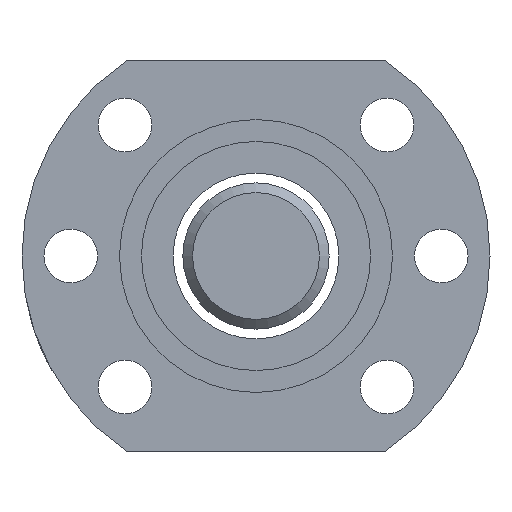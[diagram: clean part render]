
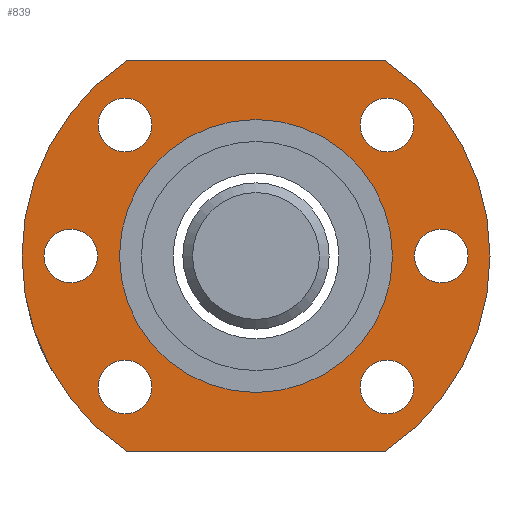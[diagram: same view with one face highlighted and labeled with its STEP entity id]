
A CAD part, left-side view. The second image highlights one B-rep face of the part: STEP entity #839.
In plain terms, the highlighted planar face has unit normal (-1, 0, 0).
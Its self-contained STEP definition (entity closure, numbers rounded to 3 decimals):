
#24 = CARTESIAN_POINT ( 'NONE',  ( -70.362, -50.269, -11.066 ) ) ;
#87 = DIRECTION ( 'NONE',  ( -1., 0., 0. ) ) ;
#122 = EDGE_CURVE ( 'NONE', #1844, #1844, #1569, .T. ) ;
#143 = CARTESIAN_POINT ( 'NONE',  ( -70.362, -63.535, 8.934 ) ) ;
#152 = DIRECTION ( 'NONE',  ( 0., 0., 1. ) ) ;
#175 = CARTESIAN_POINT ( 'NONE',  ( -70.362, -63.704, -24.501 ) ) ;
#182 = FACE_BOUND ( 'NONE', #1972, .T. ) ;
#183 = DIRECTION ( 'NONE',  ( -1., 0., 0. ) ) ;
#205 = CARTESIAN_POINT ( 'NONE',  ( -70.362, -50.269, -11.066 ) ) ;
#213 = VERTEX_POINT ( 'NONE', #556 ) ;
#215 = DIRECTION ( 'NONE',  ( 0., 0., -1. ) ) ;
#219 = DIRECTION ( 'NONE',  ( 1., 0., 0. ) ) ;
#233 = AXIS2_PLACEMENT_3D ( 'NONE', #1164, #183, #413 ) ;
#323 = AXIS2_PLACEMENT_3D ( 'NONE', #596, #219, #384 ) ;
#367 = CARTESIAN_POINT ( 'NONE',  ( -70.362, -63.704, 5.119 ) ) ;
#373 = EDGE_CURVE ( 'NONE', #2326, #798, #683, .T. ) ;
#384 = DIRECTION ( 'NONE',  ( 0., 0., 1. ) ) ;
#398 = CARTESIAN_POINT ( 'NONE',  ( -70.362, -50.269, -25.066 ) ) ;
#413 = DIRECTION ( 'NONE',  ( 0., 0., 1. ) ) ;
#418 = EDGE_LOOP ( 'NONE', ( #2000, #979, #1701, #803 ) ) ;
#427 = CARTESIAN_POINT ( 'NONE',  ( -70.362, -36.834, 5.119 ) ) ;
#456 = CIRCLE ( 'NONE', #2410, 14. ) ;
#471 = CARTESIAN_POINT ( 'NONE',  ( -70.362, -31.269, -8.316 ) ) ;
#541 = CARTESIAN_POINT ( 'NONE',  ( -70.362, -63.704, -21.751 ) ) ;
#556 = CARTESIAN_POINT ( 'NONE',  ( -70.362, -36.834, -21.751 ) ) ;
#579 = DIRECTION ( 'NONE',  ( 0., 0., -1. ) ) ;
#596 = CARTESIAN_POINT ( 'NONE',  ( -70.362, -63.704, 2.369 ) ) ;
#607 = EDGE_CURVE ( 'NONE', #1643, #1643, #1327, .T. ) ;
#615 = EDGE_LOOP ( 'NONE', ( #2124 ) ) ;
#635 = EDGE_LOOP ( 'NONE', ( #1030 ) ) ;
#654 = EDGE_LOOP ( 'NONE', ( #2310 ) ) ;
#659 = EDGE_CURVE ( 'NONE', #2174, #2174, #2426, .T. ) ;
#683 = LINE ( 'NONE', #143, #917 ) ;
#704 = LINE ( 'NONE', #1266, #1100 ) ;
#710 = CIRCLE ( 'NONE', #1074, 24. ) ;
#759 = AXIS2_PLACEMENT_3D ( 'NONE', #205, #1959, #215 ) ;
#762 = PLANE ( 'NONE',  #2387 ) ;
#768 = CARTESIAN_POINT ( 'NONE',  ( -70.362, -50.269, -11.066 ) ) ;
#781 = CIRCLE ( 'NONE', #1273, 2.75 ) ;
#785 = FACE_OUTER_BOUND ( 'NONE', #418, .T. ) ;
#786 = ORIENTED_EDGE ( 'NONE', *, *, #122, .F. ) ;
#798 = VERTEX_POINT ( 'NONE', #1728 ) ;
#803 = ORIENTED_EDGE ( 'NONE', *, *, #373, .T. ) ;
#839 = ADVANCED_FACE ( 'NONE', ( #2285, #1528, #182, #941, #2353, #785, #1756, #978 ), #762, .T. ) ;
#886 = CARTESIAN_POINT ( 'NONE',  ( -70.362, -31.269, -11.066 ) ) ;
#917 = VECTOR ( 'NONE', #2287, 1000. ) ;
#935 = DIRECTION ( 'NONE',  ( 1., 0., 0. ) ) ;
#941 = FACE_BOUND ( 'NONE', #2271, .T. ) ;
#978 = FACE_BOUND ( 'NONE', #615, .T. ) ;
#979 = ORIENTED_EDGE ( 'NONE', *, *, #1832, .T. ) ;
#983 = VERTEX_POINT ( 'NONE', #1172 ) ;
#1007 = EDGE_CURVE ( 'NONE', #1600, #2326, #1613, .T. ) ;
#1030 = ORIENTED_EDGE ( 'NONE', *, *, #1619, .T. ) ;
#1068 = EDGE_LOOP ( 'NONE', ( #1633 ) ) ;
#1074 = AXIS2_PLACEMENT_3D ( 'NONE', #768, #1933, #579 ) ;
#1089 = DIRECTION ( 'NONE',  ( 1., 0., 0. ) ) ;
#1100 = VECTOR ( 'NONE', #1863, 1000. ) ;
#1157 = DIRECTION ( 'NONE',  ( 0., 0., 1. ) ) ;
#1164 = CARTESIAN_POINT ( 'NONE',  ( -70.362, -36.834, -24.501 ) ) ;
#1172 = CARTESIAN_POINT ( 'NONE',  ( -70.362, -37.002, -31.066 ) ) ;
#1266 = CARTESIAN_POINT ( 'NONE',  ( -70.362, -37.002, -31.066 ) ) ;
#1273 = AXIS2_PLACEMENT_3D ( 'NONE', #175, #935, #1157 ) ;
#1286 = EDGE_CURVE ( 'NONE', #213, #213, #2516, .T. ) ;
#1309 = CARTESIAN_POINT ( 'NONE',  ( -70.362, -69.269, -11.066 ) ) ;
#1327 = CIRCLE ( 'NONE', #1529, 2.75 ) ;
#1341 = CARTESIAN_POINT ( 'NONE',  ( -70.362, -50.269, -11.066 ) ) ;
#1374 = VERTEX_POINT ( 'NONE', #398 ) ;
#1438 = DIRECTION ( 'NONE',  ( 0., 0., 1. ) ) ;
#1456 = CARTESIAN_POINT ( 'NONE',  ( -70.362, -69.269, -8.316 ) ) ;
#1528 = FACE_BOUND ( 'NONE', #654, .T. ) ;
#1529 = AXIS2_PLACEMENT_3D ( 'NONE', #1309, #1089, #1866 ) ;
#1546 = CIRCLE ( 'NONE', #323, 2.75 ) ;
#1569 = CIRCLE ( 'NONE', #2339, 2.75 ) ;
#1573 = DIRECTION ( 'NONE',  ( -1., 0., 0. ) ) ;
#1600 = VERTEX_POINT ( 'NONE', #2133 ) ;
#1613 = CIRCLE ( 'NONE', #759, 24. ) ;
#1619 = EDGE_CURVE ( 'NONE', #2341, #2341, #1546, .T. ) ;
#1633 = ORIENTED_EDGE ( 'NONE', *, *, #2456, .F. ) ;
#1643 = VERTEX_POINT ( 'NONE', #1456 ) ;
#1650 = AXIS2_PLACEMENT_3D ( 'NONE', #1838, #2261, #152 ) ;
#1701 = ORIENTED_EDGE ( 'NONE', *, *, #1007, .T. ) ;
#1728 = CARTESIAN_POINT ( 'NONE',  ( -70.362, -37.002, 8.934 ) ) ;
#1733 = DIRECTION ( 'NONE',  ( -1., 0., 0. ) ) ;
#1756 = FACE_BOUND ( 'NONE', #1068, .T. ) ;
#1832 = EDGE_CURVE ( 'NONE', #983, #1600, #704, .T. ) ;
#1838 = CARTESIAN_POINT ( 'NONE',  ( -70.362, -36.834, 2.369 ) ) ;
#1844 = VERTEX_POINT ( 'NONE', #471 ) ;
#1863 = DIRECTION ( 'NONE',  ( 0., -1., 0. ) ) ;
#1866 = DIRECTION ( 'NONE',  ( 0., 0., 1. ) ) ;
#1892 = ORIENTED_EDGE ( 'NONE', *, *, #659, .F. ) ;
#1911 = DIRECTION ( 'NONE',  ( 0., 0., 1. ) ) ;
#1933 = DIRECTION ( 'NONE',  ( -1., 0., 0. ) ) ;
#1959 = DIRECTION ( 'NONE',  ( -1., 0., 0. ) ) ;
#1972 = EDGE_LOOP ( 'NONE', ( #1993 ) ) ;
#1993 = ORIENTED_EDGE ( 'NONE', *, *, #1286, .F. ) ;
#2000 = ORIENTED_EDGE ( 'NONE', *, *, #2311, .T. ) ;
#2071 = EDGE_LOOP ( 'NONE', ( #786 ) ) ;
#2124 = ORIENTED_EDGE ( 'NONE', *, *, #607, .T. ) ;
#2133 = CARTESIAN_POINT ( 'NONE',  ( -70.362, -63.535, -31.066 ) ) ;
#2174 = VERTEX_POINT ( 'NONE', #427 ) ;
#2261 = DIRECTION ( 'NONE',  ( -1., 0., 0. ) ) ;
#2271 = EDGE_LOOP ( 'NONE', ( #1892 ) ) ;
#2285 = FACE_BOUND ( 'NONE', #635, .T. ) ;
#2287 = DIRECTION ( 'NONE',  ( 0., 1., 0. ) ) ;
#2289 = VERTEX_POINT ( 'NONE', #541 ) ;
#2310 = ORIENTED_EDGE ( 'NONE', *, *, #2323, .T. ) ;
#2311 = EDGE_CURVE ( 'NONE', #798, #983, #710, .T. ) ;
#2323 = EDGE_CURVE ( 'NONE', #2289, #2289, #781, .T. ) ;
#2326 = VERTEX_POINT ( 'NONE', #2327 ) ;
#2327 = CARTESIAN_POINT ( 'NONE',  ( -70.362, -63.535, 8.934 ) ) ;
#2339 = AXIS2_PLACEMENT_3D ( 'NONE', #886, #87, #1438 ) ;
#2341 = VERTEX_POINT ( 'NONE', #367 ) ;
#2349 = DIRECTION ( 'NONE',  ( 0., 0., -1. ) ) ;
#2353 = FACE_BOUND ( 'NONE', #2071, .T. ) ;
#2387 = AXIS2_PLACEMENT_3D ( 'NONE', #1341, #1733, #1911 ) ;
#2410 = AXIS2_PLACEMENT_3D ( 'NONE', #24, #1573, #2349 ) ;
#2426 = CIRCLE ( 'NONE', #1650, 2.75 ) ;
#2456 = EDGE_CURVE ( 'NONE', #1374, #1374, #456, .T. ) ;
#2516 = CIRCLE ( 'NONE', #233, 2.75 ) ;
